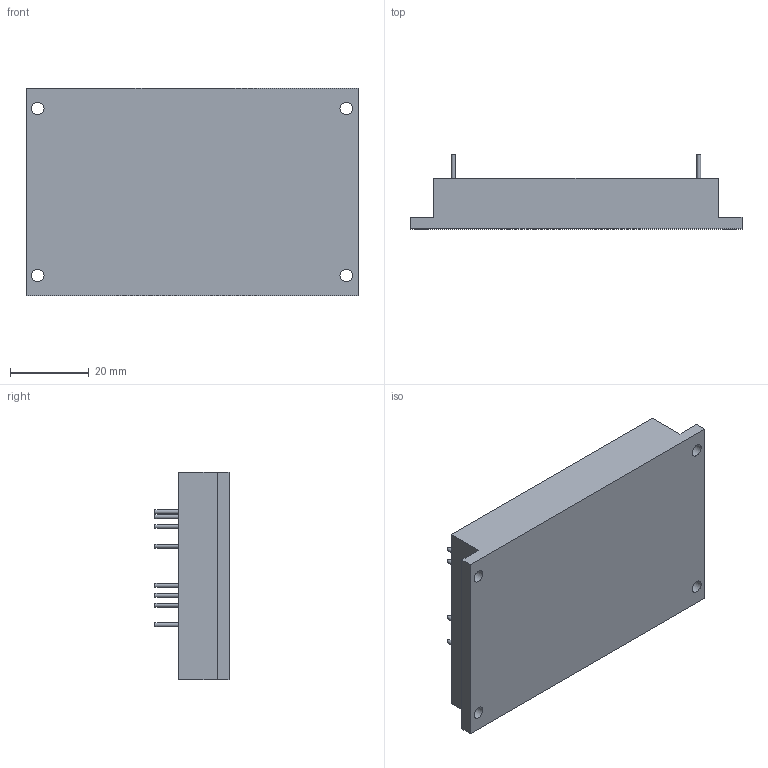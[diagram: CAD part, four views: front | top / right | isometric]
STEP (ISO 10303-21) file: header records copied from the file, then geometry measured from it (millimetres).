
FILE_DESCRIPTION((''),'2;1');
FILE_NAME('\\FILE-SERVER\Konstr\РАБОЧАЯ\Баранов А.Ю\Модули\2016\3Д модели МДМ\004 ТУ\МДМ80-2Н(М)УВ.stp','2016-02-18T16:28:26',('ABaranov'),(''),'Autodesk Inventor 2013','Autodesk Inventor 2013','');
FILE_SCHEMA(('AUTOMOTIVE_DESIGN { 1 0 10303 214 1 1 1 1 }'));
Length unit declared in the file: millimetre
Products named in the file (1): МДМ80-2Н(М)УВ
Bounding box: 84.5 x 18.85 x 52.7 mm (x, y, z)
Volume: 50939.7 mm3; surface area: 12436 mm2
Topology: 10 solids, 10 shells, 41 faces, 63 edges, 42 vertices
Faces by surface type: plane 28, cylinder 13
Full cylindrical faces by diameter (mm): 1 x9, 3.2 x4
Entity records: 941 total; most frequent: DIRECTION 160, CARTESIAN_POINT 134, ORIENTED_EDGE 100, AXIS2_PLACEMENT_3D 68, EDGE_LOOP 62, EDGE_CURVE 50, VERTEX_POINT 42, FACE_OUTER_BOUND 41
